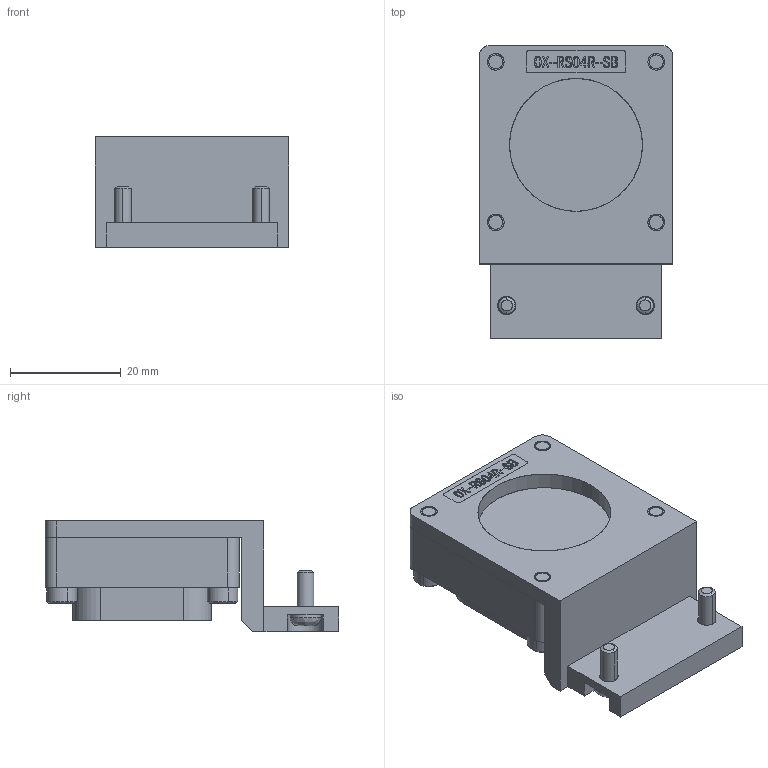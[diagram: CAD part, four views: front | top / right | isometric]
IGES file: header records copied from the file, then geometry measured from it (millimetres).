
Start section: SolidWorks IGES file using analytic representation for surfaces
Global section: file name: C:\Users\STAR056C\Desktop\140306\ネット記載用\140306.IGS; native system: SolidWorks 2016; preprocessor: SolidWorks 2016; author: STAR056C; date: 170222.113222; units: millimetre
Bounding box: 35 x 53 x 20.06 mm (x, y, z)
Surface area: 10758.7 mm2 (no closed solid volume)
Topology: 0 solids, 0 shells, 428 faces, 4920 edges, 4896 vertices
Faces by surface type: bspline 337, revolution 91
